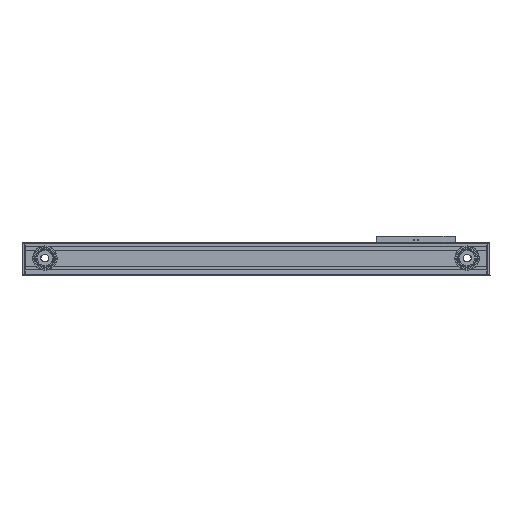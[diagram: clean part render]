
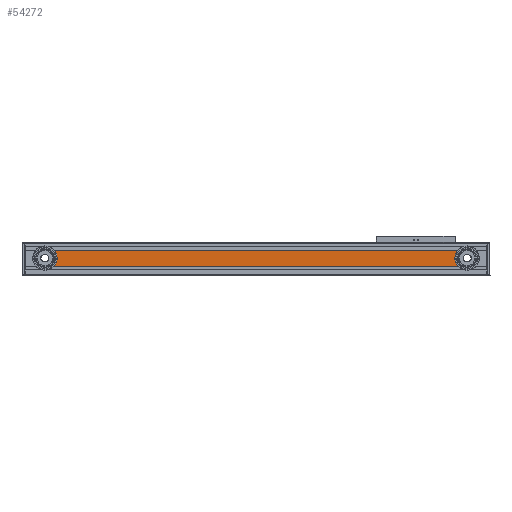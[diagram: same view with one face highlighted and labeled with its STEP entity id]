
A CAD part, top view. The second image highlights one B-rep face of the part: STEP entity #54272.
In plain terms, the highlighted planar face has unit normal (0, 0, 1).
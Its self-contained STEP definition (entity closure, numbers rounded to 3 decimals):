
#4149 = DIRECTION ( 'NONE',  ( -1., 0., 0. ) ) ;
#7130 = CARTESIAN_POINT ( 'NONE',  ( 955.328, 83.121, 83.366 ) ) ;
#8913 = CARTESIAN_POINT ( 'NONE',  ( -164.672, 103.421, 83.366 ) ) ;
#9580 = LINE ( 'NONE', #8913, #96648 ) ;
#10411 = CARTESIAN_POINT ( 'NONE',  ( -164.672, 62.821, 83.366 ) ) ;
#14434 = PLANE ( 'NONE',  #90042 ) ;
#19339 = ORIENTED_EDGE ( 'NONE', *, *, #44812, .F. ) ;
#20905 = ORIENTED_EDGE ( 'NONE', *, *, #54881, .T. ) ;
#22996 = CARTESIAN_POINT ( 'NONE',  ( -164.672, 119.121, 83.366 ) ) ;
#24512 = DIRECTION ( 'NONE',  ( 0., 0., -1. ) ) ;
#26172 = DIRECTION ( 'NONE',  ( 1., 0., 0. ) ) ;
#27092 = CARTESIAN_POINT ( 'NONE',  ( 931.899, 62.821, 83.366 ) ) ;
#30740 = LINE ( 'NONE', #10411, #70684 ) ;
#31194 = DIRECTION ( 'NONE',  ( -1., 0., 0. ) ) ;
#34108 = DIRECTION ( 'NONE',  ( 0., 0., 1. ) ) ;
#37358 = VERTEX_POINT ( 'NONE', #73524 ) ;
#42548 = EDGE_LOOP ( 'NONE', ( #130466, #19339, #20905, #55341 ) ) ;
#44657 = FACE_OUTER_BOUND ( 'NONE', #42548, .T. ) ;
#44812 = EDGE_CURVE ( 'NONE', #37358, #100301, #51541, .T. ) ;
#47112 = VERTEX_POINT ( 'NONE', #87595 ) ;
#51541 = CIRCLE ( 'NONE', #127396, 31. ) ;
#52594 = DIRECTION ( 'NONE',  ( 1., 0., 0. ) ) ;
#54272 = ADVANCED_FACE ( 'NONE', ( #44657 ), #14434, .T. ) ;
#54881 = EDGE_CURVE ( 'NONE', #37358, #79137, #9580, .T. ) ;
#55341 = ORIENTED_EDGE ( 'NONE', *, *, #106214, .T. ) ;
#70684 = VECTOR ( 'NONE', #108614, 1000. ) ;
#73524 = CARTESIAN_POINT ( 'NONE',  ( 931.899, 103.421, 83.366 ) ) ;
#77511 = AXIS2_PLACEMENT_3D ( 'NONE', #94960, #24512, #4149 ) ;
#79137 = VERTEX_POINT ( 'NONE', #94467 ) ;
#87595 = CARTESIAN_POINT ( 'NONE',  ( -91.244, 62.821, 83.366 ) ) ;
#90042 = AXIS2_PLACEMENT_3D ( 'NONE', #22996, #34108, #52594 ) ;
#94467 = CARTESIAN_POINT ( 'NONE',  ( -91.244, 103.421, 83.366 ) ) ;
#94960 = CARTESIAN_POINT ( 'NONE',  ( -114.672, 83.121, 83.366 ) ) ;
#96648 = VECTOR ( 'NONE', #31194, 1000. ) ;
#100301 = VERTEX_POINT ( 'NONE', #27092 ) ;
#104439 = EDGE_CURVE ( 'NONE', #47112, #100301, #30740, .T. ) ;
#106214 = EDGE_CURVE ( 'NONE', #79137, #47112, #113273, .T. ) ;
#108614 = DIRECTION ( 'NONE',  ( 1., 0., 0. ) ) ;
#113273 = CIRCLE ( 'NONE', #77511, 31. ) ;
#116519 = DIRECTION ( 'NONE',  ( 0., 0., 1. ) ) ;
#127396 = AXIS2_PLACEMENT_3D ( 'NONE', #7130, #116519, #26172 ) ;
#130466 = ORIENTED_EDGE ( 'NONE', *, *, #104439, .T. ) ;
